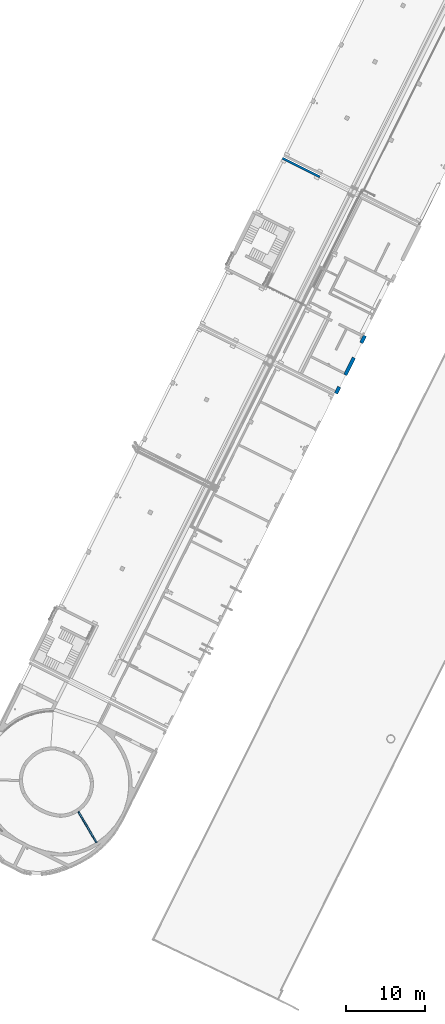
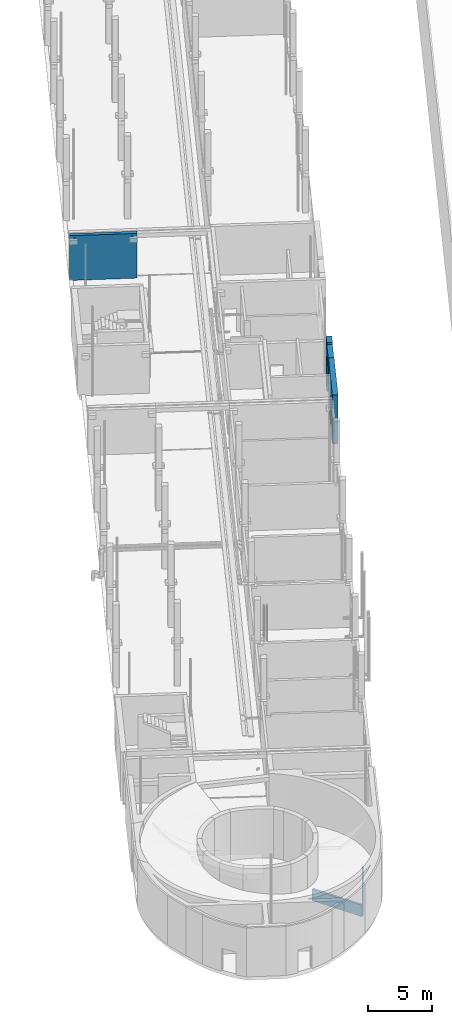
# One storey, part 22 of 91: 3 walls.
"""IFC2X3 building model written with IfcOpenShell, lengths in metres."""

from ifc_helpers import new_model, entity, si_unit, converted_unit, derived_unit, direction, frame, origin, place, context, subcontext, project, spatial, faceted_brep, material, material_list, layer, layer_set, type_object, element, save


model = new_model("IFC2X3")

# Units and contexts
model_context = context("Model", 3, precision=1e-05, world=origin(), true_north=direction((0.894925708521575, 0.446215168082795)))
context_of_model = context(None, 3, precision=1e-05, world=origin(), true_north=direction((0.894925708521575, 0.446215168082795)))
body_context = subcontext(model_context, "Body", "Model", "MODEL_VIEW")
ifc_project = project(units=[si_unit("LENGTHUNIT", "METRE"), si_unit("AREAUNIT", "SQUARE_METRE"), si_unit("VOLUMEUNIT", "CUBIC_METRE"), converted_unit("PLANEANGLEUNIT", "DEGREE", entity("IfcRatioMeasure", 0.0174532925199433), si_unit("PLANEANGLEUNIT", "RADIAN"), dimensions=[0, 0, 0, 0, 0, 0, 0]), si_unit("MASSUNIT", "GRAM", prefix="KILO"), si_unit("TIMEUNIT", "SECOND"), si_unit("FREQUENCYUNIT", "HERTZ"), si_unit("THERMODYNAMICTEMPERATUREUNIT", "DEGREE_CELSIUS"), derived_unit("THERMALTRANSMITTANCEUNIT", [(si_unit("MASSUNIT", "GRAM", prefix="KILO"), 1), (si_unit("THERMODYNAMICTEMPERATUREUNIT", "KELVIN"), -1), (si_unit("TIMEUNIT", "SECOND"), -3)]), derived_unit("VOLUMETRICFLOWRATEUNIT", [(si_unit("LENGTHUNIT", "METRE"), 3), (si_unit("TIMEUNIT", "SECOND"), -1)]), si_unit("ELECTRICCURRENTUNIT", "AMPERE"), si_unit("ELECTRICVOLTAGEUNIT", "VOLT"), si_unit("POWERUNIT", "WATT"), si_unit("FORCEUNIT", "NEWTON", prefix="KILO"), si_unit("ILLUMINANCEUNIT", "LUX"), si_unit("LUMINOUSFLUXUNIT", "LUMEN"), si_unit("LUMINOUSINTENSITYUNIT", "CANDELA"), si_unit("PRESSUREUNIT", "PASCAL")], contexts=[model_context, context_of_model])

# Site, building, storey
site_placement = place(None, frame((218.228324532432, 584.720189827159, 0.0), z_axis=(0.0, 0.0, 1.0), x_axis=(0.446215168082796, 0.894925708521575, 0.0)))
site = spatial("IfcSite", under=ifc_project, at=site_placement, Name="Default", CompositionType="ELEMENT")
building_placement = place(site_placement, origin())
building = spatial("IfcBuilding", under=site, at=building_placement, CompositionType="ELEMENT")
storey_placement = place(building_placement, origin())
storey = spatial("IfcBuildingStorey", under=building, at=storey_placement, Name="0 - Piano Terra", CompositionType="ELEMENT", Elevation=0.0)

# Walls
ifc_material_1 = material(Name="Alluminio")
ifc_material_2 = material(Name="Default - Calcestruzzo")
ifc_material_list = material_list([ifc_material_1, ifc_material_2])
wall_type_1 = type_object("IfcWallType", Name="Muro di base:Setto CA rivestito est 45", PredefinedType="NOTDEFINED")
wall_1_placement = place(storey_placement, frame((-4.58437167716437, -13.3360789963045, 0.0), z_axis=(0.0, 0.0, 1.0), x_axis=(-1.0, 0.0, 0.0)))
element("IfcWall", 1, at=wall_1_placement, inside=storey, type_object=wall_type_1, material=ifc_material_list, Name="Muro di base:Setto CA rivestito est 45", ObjectType="Muro di base:Setto CA rivestito est 45", context=body_context, shape_type="Brep", body=[
    faceted_brep([(0.0, -0.224999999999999, 4.29), (0.0, -0.224999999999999, 0.0), (0.300000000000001, -0.224999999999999, 0.0), (1.00939891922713, -0.224999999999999, 0.0), (1.00939891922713, -0.224999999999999, 3.8), (3.10939891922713, -0.224999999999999, 3.8), (3.10939891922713, -0.224999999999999, 0.0), (5.5599999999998, -0.224999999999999, 0.0), (5.5599999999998, -0.224999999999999, 3.2), (7.2599999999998, -0.224999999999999, 3.2), (7.2599999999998, -0.224999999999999, 0.0), (7.89999999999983, -0.224999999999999, 0.0), (8.19999999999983, -0.224999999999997, 0.0), (8.19999999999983, -0.224999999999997, 4.29), (8.19999999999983, -0.224999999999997, 4.69), (3.10939891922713, -0.224999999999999, 4.69), (3.10939891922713, -0.224999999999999, 4.48), (1.00939891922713, -0.224999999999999, 4.48), (1.00939891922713, -0.224999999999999, 4.69), (0.150000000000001, -0.224999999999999, 4.69), (0.15, -0.224999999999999, 4.29), (5.5599999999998, 0.225000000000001, 3.2), (5.5599999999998, 0.225000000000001, 0.0), (3.10939891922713, 0.225000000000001, 0.0), (3.10939891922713, 0.225000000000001, 3.8), (1.00939891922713, 0.225000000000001, 3.8), (1.00939891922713, 0.225000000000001, 0.0), (0.0, 0.225000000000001, 0.0), (0.0, 0.225000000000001, 4.29), (0.15, 0.225000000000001, 4.29), (0.15, 0.225000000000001, 4.69), (1.00939891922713, 0.225000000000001, 4.69), (1.00939891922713, 0.225000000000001, 4.48), (3.10939891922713, 0.225000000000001, 4.48), (3.10939891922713, 0.225000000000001, 4.69), (8.19999999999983, 0.225000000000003, 4.69), (8.19999999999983, 0.225000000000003, 0.0), (7.2599999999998, 0.225000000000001, 0.0), (7.2599999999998, 0.225000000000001, 3.2)], [[[0, 1, 2, 3, 4, 5, 6, 7, 8, 9, 10, 11, 12, 13, 14, 15, 16, 17, 18, 19, 20]], [[21, 22, 23, 24, 25, 26, 27, 28, 29, 30, 31, 32, 33, 34, 35, 36, 37, 38]], [[1, 27, 26, 3, 2]], [[14, 35, 34, 15]], [[22, 21, 8, 7]], [[38, 37, 10, 9]], [[21, 38, 9, 8]], [[6, 5, 24, 23]], [[4, 3, 26, 25]], [[5, 4, 25, 24]], [[33, 16, 15, 34]], [[16, 33, 32, 17]], [[17, 32, 31, 18]], [[14, 13, 12, 36, 35]], [[19, 30, 29, 20]], [[20, 29, 28, 0]], [[27, 1, 0, 28]], [[30, 19, 18, 31]], [[10, 37, 36, 12, 11]], [[22, 7, 6, 23]]]),
])
ifc_material_3 = material(Name="Sabbia e Calcestruzzo")
ifc_layer = layer(ifc_material_3, 0.2)
ifc_layer_set = layer_set([ifc_layer], Name="Muro di base:Blocchetti - 20 cm")
wall_type_2 = type_object("IfcWallType", Name="Muro di base:Blocchetti - 20 cm", PredefinedType="STANDARD", material=ifc_layer_set)
wall_2_placement = place(storey_placement, frame((-74.9872116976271, -7.73989400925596, 0.0), z_axis=(0.0, 0.0, 1.0), x_axis=(-0.547397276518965, -0.83687288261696, 0.0)))
element("IfcWall", 2, at=wall_2_placement, inside=storey, type_object=wall_type_2, Name="Muro di base:Blocchetti - 20 cm", ObjectType="Muro di base:Blocchetti - 20 cm", context=body_context, shape_type="Brep", body=[
    faceted_brep([(0.0118443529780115, -0.0999999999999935, 0.0), (4.53740070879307, -0.0999999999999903, 0.0), (4.53740070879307, -0.0999999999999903, 4.69), (4.53593682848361, -0.0999999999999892, 4.69), (4.53593682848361, -0.0999999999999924, 3.85342432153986), (4.53593682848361, -0.0999999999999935, 2.89347518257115), (4.53593682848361, -0.0999999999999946, 1.93352604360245), (4.53593682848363, -0.0999999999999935, 1.0969503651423), (4.03325994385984, -0.0999999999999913, 1.09731405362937), (3.53058305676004, -0.099999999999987, 1.09765772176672), (3.0279061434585, -0.0999999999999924, 1.09797723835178), (2.52522924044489, -0.0999999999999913, 1.09826725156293), (2.02255227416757, -0.0999999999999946, 1.0985207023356), (1.51987531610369, -0.0999999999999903, 1.09872808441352), (1.01719833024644, -0.0999999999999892, 1.0988762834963), (0.514521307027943, -0.0999999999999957, 1.09894668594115), (0.0118443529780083, -0.0999999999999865, 1.09891195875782), (4.53740070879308, 0.100000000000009, 0.0), (0.0, 0.100000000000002, 0.0), (0.0, 0.100000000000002, 1.07804121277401), (0.503081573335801, 0.100000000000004, 1.08011841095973), (1.00616520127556, 0.100000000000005, 1.0817028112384), (1.509249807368, 0.100000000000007, 1.08292243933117), (2.01233525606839, 0.100000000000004, 1.08386453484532), (2.51542069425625, 0.10000000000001, 1.08459058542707), (3.0185065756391, 0.100000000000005, 1.08514517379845), (3.52159252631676, 0.100000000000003, 1.08556140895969), (4.02467852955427, 0.100000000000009, 1.08586439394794), (4.52776469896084, 0.100000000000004, 1.08607350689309), (4.52776469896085, 0.100000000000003, 1.92264918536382), (4.52776469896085, 0.100000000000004, 2.75922486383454), (4.52776469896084, 0.100000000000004, 3.85342432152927), (4.52776469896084, 0.100000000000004, 4.69), (4.53740070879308, 0.100000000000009, 4.69), (0.00707388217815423, 6.82060435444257e-05, 0.0), (0.00892014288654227, -0.0332756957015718, 1.09195486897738), (0.00497171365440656, 0.0333963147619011, 1.0849978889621), (4.53239562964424, 2.22635744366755e-05, 4.69), (4.53224099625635, 0.00378773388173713, 3.1108390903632), (4.53369713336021, -0.0333141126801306, 1.09332472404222), (4.53097304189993, 0.0333537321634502, 1.0896991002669), (4.53237752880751, 0.000464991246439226, 2.34093702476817), (4.53239562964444, 2.22635695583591e-05, 3.96860137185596)], [[[0, 1, 2, 3, 4, 5, 6, 7, 8, 9, 10, 11, 12, 13, 14, 15, 16]], [[17, 18, 19, 20, 21, 22, 23, 24, 25, 26, 27, 28, 29, 30, 31, 32, 33]], [[1, 0, 34, 18, 17]], [[2, 1, 17, 33]], [[35, 0, 16]], [[34, 0, 35]], [[36, 18, 34]], [[18, 36, 19]], [[35, 36, 34]], [[3, 2, 33, 32, 37]], [[4, 38, 5]], [[6, 39, 7]], [[40, 41, 29]], [[29, 41, 30]], [[29, 28, 40]], [[38, 30, 41]], [[41, 6, 5]], [[38, 41, 5]], [[42, 37, 32, 31]], [[42, 4, 3, 37]], [[41, 40, 39]], [[6, 41, 39]], [[38, 31, 30]], [[42, 31, 38]], [[4, 42, 38]], [[9, 8, 27]], [[39, 8, 7]], [[10, 9, 26]], [[40, 8, 39]], [[11, 10, 25]], [[12, 23, 13]], [[24, 12, 11]], [[14, 35, 15]], [[22, 14, 13]], [[15, 35, 16]], [[27, 8, 40]], [[25, 10, 26]], [[26, 9, 27]], [[22, 13, 23]], [[23, 12, 24]], [[24, 11, 25]], [[36, 35, 21]], [[14, 22, 21]], [[35, 14, 21]], [[20, 19, 36]], [[21, 20, 36]], [[27, 40, 28]]]),
])
wall_type_3 = type_object("IfcWallType", Name="Setto C.a.2:Setto C.a.", PredefinedType="NOTDEFINED", material=ifc_material_2)
wall_3_placement = place(storey_placement, frame((10.7942149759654, 0.798921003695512, 0.0), z_axis=(0.0, 0.0, 1.0), x_axis=(0.0, 1.0, 0.0)))
element("IfcWall", 3, at=wall_3_placement, inside=storey, type_object=wall_type_3, material=ifc_material_2, Name="Setto C.a.2:Setto C.a.", ObjectType="Setto C.a.2:Setto C.a.", context=body_context, shape_type="Brep", body=[
    faceted_brep([(5.32000000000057, -0.300000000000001, 0.0), (0.0, -0.300000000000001, 0.0), (0.0, 0.0, 0.0), (5.32000000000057, 0.0, 0.0), (5.32000000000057, 0.0, 4.03), (5.32000000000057, -0.0142745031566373, 4.03), (5.32000000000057, -0.0142745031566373, 4.29), (5.32000000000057, -0.300000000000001, 4.29), (0.0, 0.0, 4.03), (0.650000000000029, 0.0, 4.03), (0.650000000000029, 0.0, 4.29), (4.72000000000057, 0.0, 4.29), (4.72000000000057, 0.0, 4.03), (0.0, -0.300000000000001, 4.29), (0.0, -0.014274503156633, 4.29), (0.0, -0.0142745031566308, 4.03), (4.72000000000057, -0.0142745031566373, 4.03), (4.72000000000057, -0.0142745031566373, 4.29), (0.650000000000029, -0.0142745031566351, 4.29), (0.650000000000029, -0.0142745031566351, 4.03)], [[[0, 1, 2, 3]], [[0, 3, 4, 5, 6, 7]], [[3, 2, 8, 9, 10, 11, 12, 4]], [[2, 1, 13, 14, 15, 8]], [[1, 0, 7, 13]], [[16, 17, 6, 5]], [[17, 16, 12, 11]], [[16, 5, 4, 12]], [[18, 19, 15, 14]], [[15, 19, 9, 8]], [[19, 18, 10, 9]], [[13, 7, 6, 17, 11, 10, 18, 14]]]),
])

save(model, "model.ifc")
